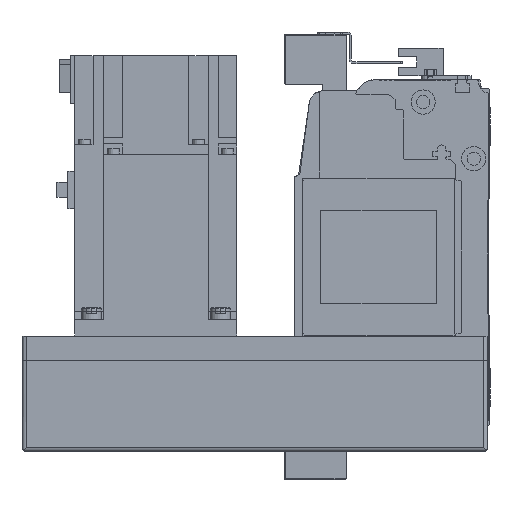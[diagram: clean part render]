
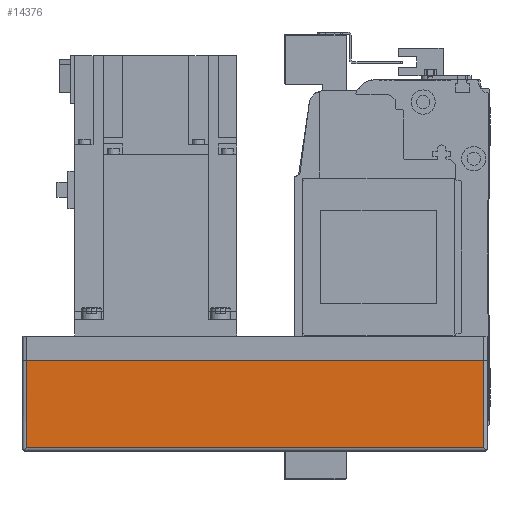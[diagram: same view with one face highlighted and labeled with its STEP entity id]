
A CAD part, left-side view. The second image highlights one B-rep face of the part: STEP entity #14376.
In plain terms, the highlighted planar face has unit normal (-1, 0, 0) as drawn and (0, -1, 0) by its records, which use the part's own axes.
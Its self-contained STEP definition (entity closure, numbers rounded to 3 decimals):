
#2471=ORIENTED_EDGE('',*,*,#5880,.F.);
#2472=ORIENTED_EDGE('',*,*,#5883,.T.);
#2473=ORIENTED_EDGE('',*,*,#5884,.T.);
#2474=ORIENTED_EDGE('',*,*,#5885,.F.);
#5880=EDGE_CURVE('',#7715,#7716,#9223,.T.);
#5883=EDGE_CURVE('',#7715,#7718,#9225,.T.);
#5884=EDGE_CURVE('',#7718,#7719,#9226,.T.);
#5885=EDGE_CURVE('',#7716,#7719,#9227,.T.);
#7715=VERTEX_POINT('',#22591);
#7716=VERTEX_POINT('',#22593);
#7718=VERTEX_POINT('',#22599);
#7719=VERTEX_POINT('',#22601);
#9223=LINE('',#22592,#10536);
#9225=LINE('',#22598,#10538);
#9226=LINE('',#22600,#10539);
#9227=LINE('',#22602,#10540);
#10536=VECTOR('',#18010,1000.);
#10538=VECTOR('',#18016,1000.);
#10539=VECTOR('',#18017,1000.);
#10540=VECTOR('',#18018,1000.);
#11660=EDGE_LOOP('',(#2471,#2472,#2473,#2474));
#12795=FACE_BOUND('',#11660,.T.);
#13780=PLANE('',#15438);
#14376=ADVANCED_FACE('',(#12795),#13780,.T.);
#15438=AXIS2_PLACEMENT_3D('',#22597,#18014,#18015);
#18010=DIRECTION('',(0.,0.,1.));
#18014=DIRECTION('',(0.,-1.,0.));
#18015=DIRECTION('',(0.,0.,-1.));
#18016=DIRECTION('',(1.,0.,0.));
#18017=DIRECTION('',(0.,0.,1.));
#18018=DIRECTION('',(1.,0.,0.));
#22591=CARTESIAN_POINT('',(-228.,-54.,-55.));
#22592=CARTESIAN_POINT('',(-228.,-54.,-57.));
#22593=CARTESIAN_POINT('',(-228.,-54.,-12.));
#22597=CARTESIAN_POINT('',(-228.,-54.,-57.));
#22598=CARTESIAN_POINT('',(-230.,-54.,-55.));
#22599=CARTESIAN_POINT('',(-2.,-54.,-55.));
#22600=CARTESIAN_POINT('',(-2.,-54.,-57.));
#22601=CARTESIAN_POINT('',(-2.,-54.,-12.));
#22602=CARTESIAN_POINT('',(-228.,-54.,-12.));
